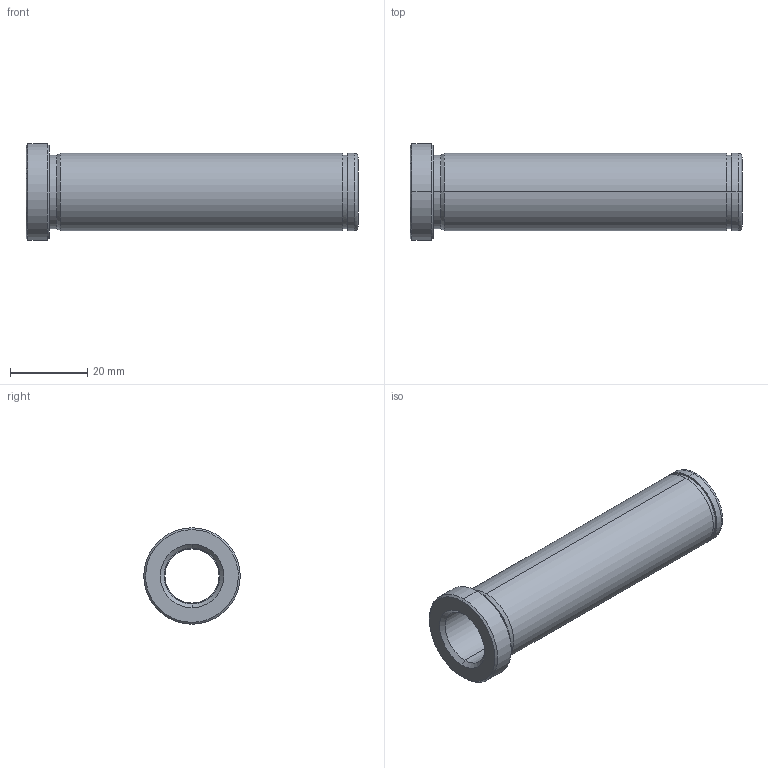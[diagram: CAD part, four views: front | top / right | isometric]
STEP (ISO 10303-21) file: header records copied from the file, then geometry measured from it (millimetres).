
FILE_DESCRIPTION(('CATIA V5 STEP Exchange'),'2;1');
FILE_NAME('C:\Users\Utente\Desktop\IO LAVORO\3D X SITO CF\X SITO\PLASTICA\553\553-14X86.stp','2021-05-21T18:21:30+00:00',('none'),('none'),'CATIA Version 5 Release 20 GA (IN-10)','CATIA V5 STEP AP203','none');
FILE_SCHEMA(('CONFIG_CONTROL_DESIGN'));
Length unit declared in the file: millimetre
Products named in the file (1): 553-14x86
Bounding box: 86 x 25 x 25 mm (x, y, z)
Volume: 14198.5 mm3; surface area: 9978.6 mm2
Topology: 1 solids, 1 shells, 32 faces, 102 edges, 76 vertices
Faces by surface type: cylinder 14, cone 8, plane 6, torus 4
Entity records: 1334 total; most frequent: CARTESIAN_POINT 389, ORIENTED_EDGE 204, DIRECTION 152, EDGE_CURVE 102, AXIS2_PLACEMENT_3D 99, VERTEX_POINT 76, CIRCLE 66, EDGE_LOOP 38
